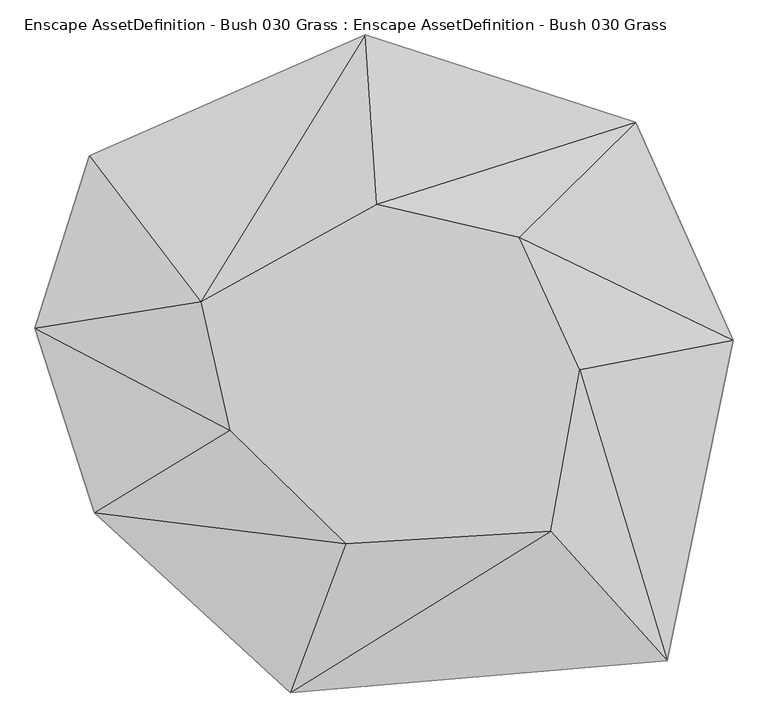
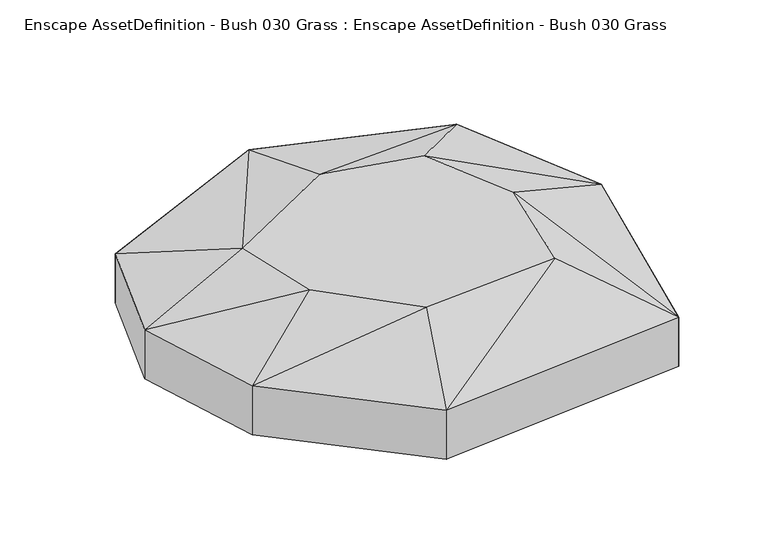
"""IFC4 building model written with IfcOpenShell, lengths in millimetres: geographic element geometry, Enscape AssetDefinition - Bush 030 Grass : Enscape AssetDefinition - Bush 030 Grass."""

from ifc_helpers import new_model, si_unit, origin, place, context, project, spatial, triangles, source, transform, mapped, element, save


def enscape_assetdefinition_bush_030_grass_enscape_458df57b(model_context):
    return source(origin(), model_context, "Body", "Tessellation", [
        triangles([(212.098718, 206.1598908, 209.6558438), (304.0153459, 5.5952583, 209.6558438), (-3.1042777, 255.4641124, 209.6558438), (388.3433381, 379.5109557, 120.8526524), (535.5872575, 50.2840265, 120.8526524), (436.2159974, -434.3239981, 0.0), (-134.2358108, -482.6804941, 120.8526524), (-134.2358108, -482.6804941, 0.0), (436.2159974, -434.3239981, 120.8526524), (260.1002212, -238.8764803, 209.6558438), (-50.3951207, -257.7810313, 209.6558438), (-430.6665542, -211.0588105, 0.0), (-430.6665542, -211.0588105, 120.8526524), (-225.6244549, -86.2807074, 209.6552625), (-437.7581271, 328.801442, 120.8526524), (-269.1032327, 108.2729151, 209.6558438), (-520.1901232, 68.1034194, 0.0005726), (-520.1901232, 68.1034194, 120.8526524), (-437.7581271, 328.801442, 0.0), (-20.7850867, 511.8404511, 0.0), (-20.7850867, 511.8404511, 120.8526524), (388.3433381, 379.5109557, 0.0), (535.5872575, 50.2840265, 0.0)], [[23, 22, 4], [21, 4, 22], [22, 20, 21], [15, 21, 20], [20, 19, 15], [18, 15, 19], [19, 17, 18], [15, 18, 16], [21, 15, 16], [4, 21, 3], [16, 3, 21], [14, 16, 18], [16, 14, 3], [18, 13, 14], [13, 18, 17], [17, 12, 13], [11, 14, 13], [14, 11, 3], [13, 7, 11], [7, 13, 12], [12, 8, 7], [10, 11, 7], [11, 10, 3], [7, 9, 10], [9, 7, 8], [8, 6, 9], [4, 5, 23], [5, 9, 6], [6, 23, 5], [3, 1, 4], [5, 4, 1], [1, 2, 5], [2, 10, 9], [9, 5, 2], [10, 2, 3], [2, 1, 3]], closed=False),
    ])


if __name__ == "__main__":
    model = new_model("IFC4")
    model_context = context("Model", 3, world=origin())
    ifc_project = project(units=[si_unit("LENGTHUNIT", "METRE", prefix="MILLI")], contexts=[model_context])
    site = spatial("IfcSite", under=ifc_project)
    building = spatial("IfcBuilding", under=site)
    placement = place(None, origin())
    enscape_assetdefinition_bush_030_grass_enscape_shape = enscape_assetdefinition_bush_030_grass_enscape_458df57b(model_context)
    element("IfcGeographicElement", 1, ObjectType="Enscape AssetDefinition - Bush 030 Grass : Enscape AssetDefinition - Bush 030 Grass", at=placement, inside=building, context=model_context, shape_type="MappedRepresentation", body=[
        mapped(enscape_assetdefinition_bush_030_grass_enscape_shape, transform((0.0, 0.0, 0.0), x_axis=(1.0, 0.0, 0.0), y_axis=(0.0, 1.0, 0.0), z_axis=(0.0, 0.0, 1.0))),
    ])
    save(model, "model.ifc")
